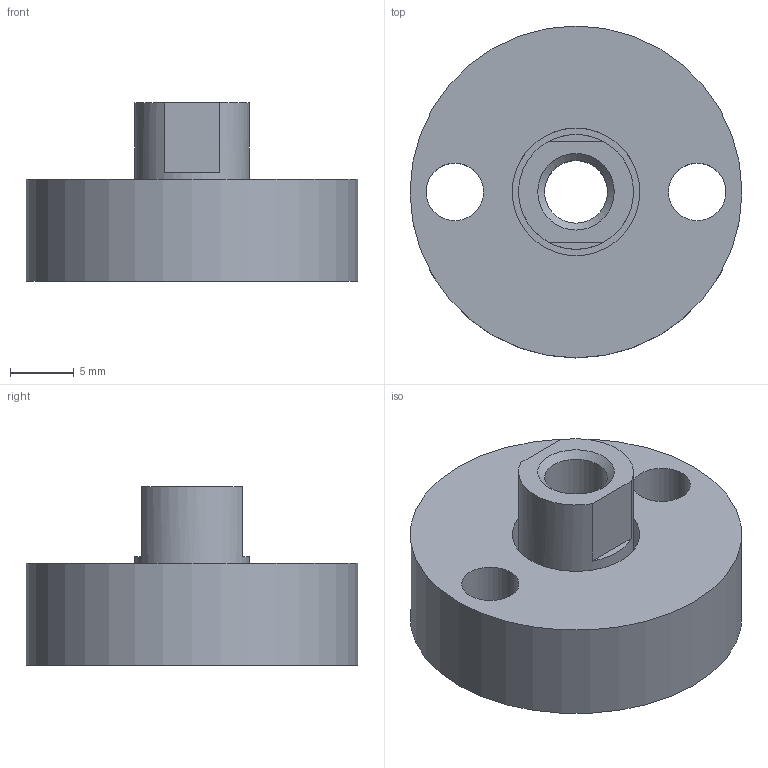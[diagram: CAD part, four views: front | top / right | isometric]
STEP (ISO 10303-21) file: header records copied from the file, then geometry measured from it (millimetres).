
FILE_DESCRIPTION( ( 'STEP AP214' ), '1' );
FILE_NAME( 'U:/Etudes/Top Solid/BIBLIO 3D AVM/TOP/PNEUMATIQUE/GUIDAGES/Accessoires/Accouplements/5133001.step', '2005-05-27T08:26:47', ( ' ' ), ( ' ' ), 'XStep 1.0', ' ', ' ' );
FILE_SCHEMA( ( 'automotive_design' ) );
Length unit declared in the file: metre
Products named in the file (1): 1
Bounding box: 26 x 26 x 14 mm (x, y, z)
Volume: 4043.9 mm3; surface area: 2398.4 mm2
Topology: 1 solids, 1 shells, 16 faces, 34 edges, 22 vertices
Faces by surface type: plane 8, cylinder 7, cone 1
Full cylindrical faces by diameter (mm): 4.5 x2, 4.918 x2, 9 x1, 10 x1, 26 x1
Entity records: 546 total; most frequent: DIRECTION 76, CARTESIAN_POINT 63, ORIENTED_EDGE 50, AXIS2_PLACEMENT_3D 34, EDGE_LOOP 32, EDGE_CURVE 25, FACE_OUTER_BOUND 23, VERTEX_POINT 21
